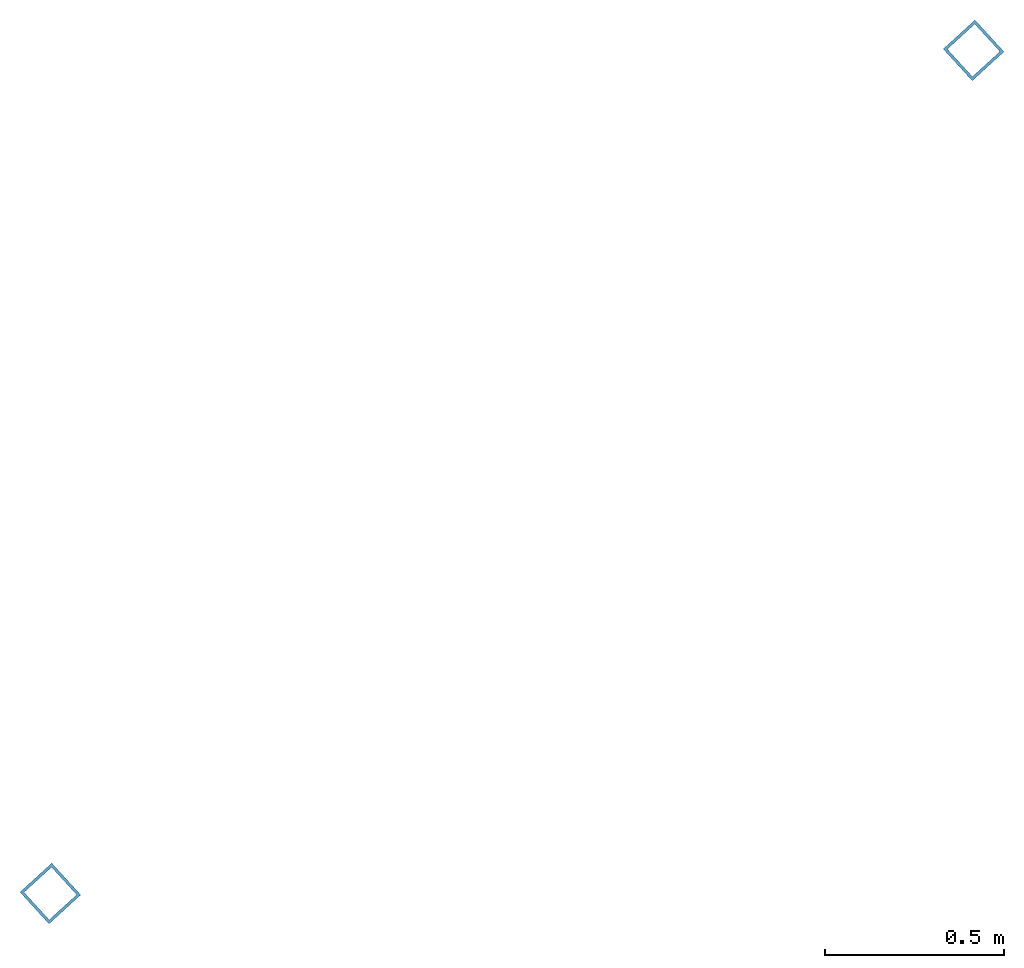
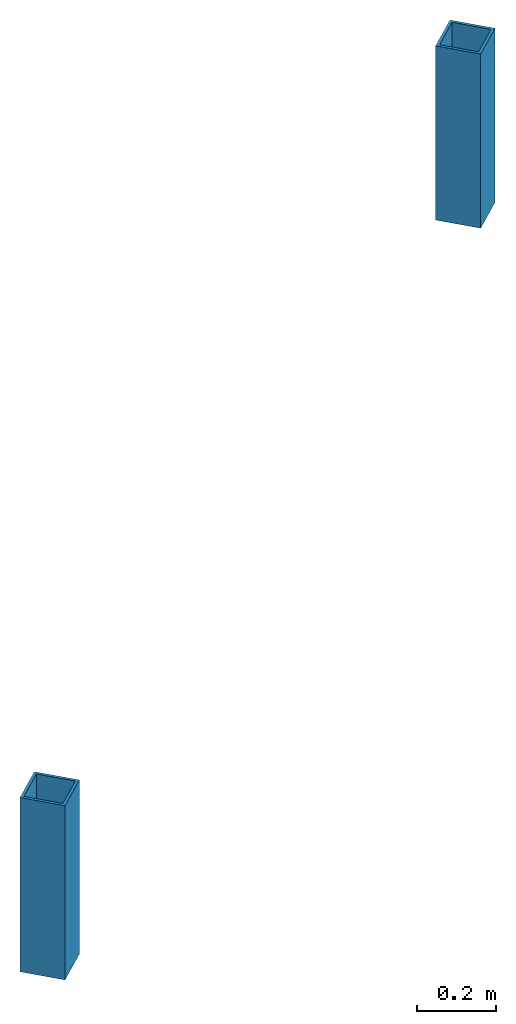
# One storey: 2 columns.
"""IFC2X3 building model written with IfcOpenShell, lengths in millimetres."""

from ifc_helpers import new_model, entity, si_unit, converted_unit, derived_unit, direction, frame, origin, origin_with_axes, place, context, subcontext, project, spatial, faceted_brep, material, type_object, element, save


model = new_model("IFC2X3")

# Units and contexts
model_context = context("Model", 3, precision=0.01, world=origin(), true_north=direction((6.12323399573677e-17, 1.0)))
plan_context = context("Plan", 3, precision=1e-05, world=origin_with_axes())
body_context = subcontext(model_context, "Body", "Model", "MODEL_VIEW")
ifc_project = project(units=[converted_unit("PLANEANGLEUNIT", "DEGREE", entity("IfcPositiveLengthMeasure", 0.0174532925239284), si_unit("PLANEANGLEUNIT", "RADIAN"), dimensions=[0, 0, 0, 0, 0, 0, 0]), si_unit("AREAUNIT", "SQUARE_METRE"), si_unit("LENGTHUNIT", "METRE", prefix="MILLI"), si_unit("MASSUNIT", "GRAM", prefix="KILO"), si_unit("POWERUNIT", "WATT"), si_unit("PRESSUREUNIT", "PASCAL", prefix="KILO"), si_unit("FORCEUNIT", "NEWTON", prefix="KILO"), si_unit("ELECTRICVOLTAGEUNIT", "VOLT"), si_unit("ELECTRICCURRENTUNIT", "AMPERE"), si_unit("THERMODYNAMICTEMPERATUREUNIT", "DEGREE_CELSIUS"), si_unit("TIMEUNIT", "SECOND"), si_unit("VOLUMEUNIT", "CUBIC_METRE"), derived_unit("LINEARVELOCITYUNIT", [(si_unit("LENGTHUNIT", "METRE"), 1), (si_unit("TIMEUNIT", "SECOND"), -1)]), derived_unit("VOLUMETRICFLOWRATEUNIT", [(si_unit("VOLUMEUNIT", "CUBIC_METRE"), 1), (si_unit("TIMEUNIT", "SECOND"), -1)]), derived_unit("THERMALTRANSMITTANCEUNIT", [(si_unit("POWERUNIT", "WATT"), 1), (si_unit("THERMODYNAMICTEMPERATUREUNIT", "KELVIN"), -1), (si_unit("AREAUNIT", "SQUARE_METRE"), -1)]), derived_unit("SOUNDPRESSUREUNIT", [(si_unit("PRESSUREUNIT", "PASCAL"), 1)])], contexts=[model_context, plan_context])

# Site, building, storey
site_placement = place(None, frame((0.0, 0.0, 0.0), z_axis=(0.0, 0.0, 1.0), x_axis=(0.214787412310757, -0.97666082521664, 0.0)))
site = spatial("IfcSite", under=ifc_project, at=site_placement, Name="Default", CompositionType="ELEMENT")
building_placement = place(site_placement, origin_with_axes())
building = spatial("IfcBuilding", under=site, at=building_placement, CompositionType="ELEMENT")
storey_placement = place(building_placement, frame((0.0, 0.0, 5100.0), z_axis=(0.0, 0.0, 1.0), x_axis=(1.0, 0.0, 0.0)))
storey = spatial("IfcBuildingStorey", under=building, at=storey_placement, Name="1. ETASJE", CompositionType="ELEMENT", Elevation=5099.99999999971)

# Columns
ifc_material = material(Name="Stål - S355J")
column_type = type_object("IfcColumnType", Name="NO_Column_Steel_Hollow Rectangular:RHS 120x120x8", PredefinedType="COLUMN", material=ifc_material)
for number, where, z_axis, x_axis, name in (
    (1, (-63597.8728076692, 292993.846004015, -5100.0), (0.0, 0.0, 1.0), (0.866025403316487, 0.500000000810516, 0.0), "NO_Column_Steel_Hollow Rectangular:RHS 120x120x8"),
    (2, (-61852.8728045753, 289971.417346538, -5100.0), (0.0, 0.0, 1.0), (0.866025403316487, 0.500000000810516, 0.0), "NO_Column_Steel_Hollow Rectangular:RHS 120x120x8"),
):
    element("IfcColumn", number, at=place(storey_placement, frame(where, z_axis=z_axis, x_axis=x_axis)), inside=storey, type_object=column_type, Name=name, ObjectType="NO_Column_Steel_Hollow Rectangular:RHS 120x120x8", context=body_context, shape_type="Brep", body=[
        faceted_brep([(52.0, 52.0, 8300.0), (-52.0, 52.0, 8300.0), (-52.0, 52.0, 8840.0), (52.0, 52.0, 8840.0), (52.0, -52.0, 8300.0), (52.0, -52.0, 8840.0), (-52.0, -52.0, 8300.0), (-52.0, -52.0, 8840.0), (60.0, 60.0, 8300.0), (60.0, -60.0, 8300.0), (60.0, -60.0, 8840.0), (60.0, 60.0, 8840.0), (-60.0, 60.0, 8300.0), (-60.0, 60.0, 8840.0), (-60.0, -60.0, 8300.0), (-60.0, -60.0, 8840.0)], [[[0, 1, 2, 3]], [[4, 0, 3, 5]], [[6, 4, 5, 7]], [[1, 6, 7, 2]], [[8, 9, 10, 11]], [[12, 8, 11, 13]], [[14, 12, 13, 15]], [[9, 14, 15, 10]], [[11, 10, 15, 13], [2, 7, 5, 3]], [[12, 14, 9, 8], [4, 6, 1, 0]]], orient=[[False], [False], [False], [False], [False], [False], [False], [False], [False, False], [False, False]]),
    ])

save(model, "model.ifc")
